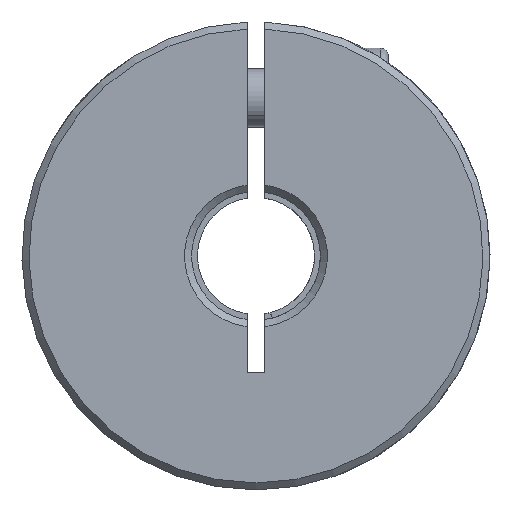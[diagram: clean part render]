
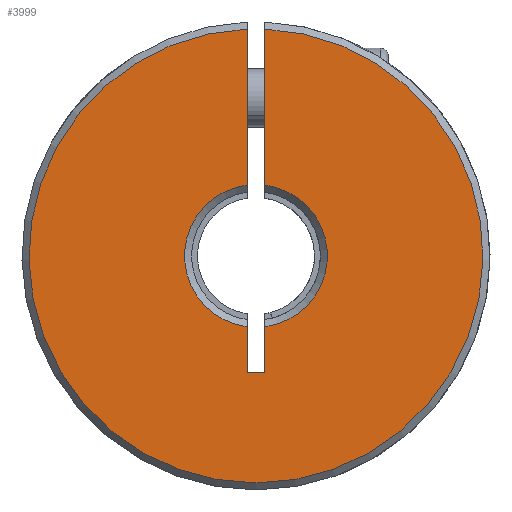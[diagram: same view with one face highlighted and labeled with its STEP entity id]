
A CAD part, front view. The second image highlights one B-rep face of the part: STEP entity #3999.
In plain terms, the highlighted planar face has unit normal (0, -1, 0).
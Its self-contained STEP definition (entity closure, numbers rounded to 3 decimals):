
#83 = VERTEX_POINT ( 'NONE', #1949 ) ;
#127 = DIRECTION ( 'NONE',  ( 0., 0., 1. ) ) ;
#228 = LINE ( 'NONE', #2594, #5447 ) ;
#339 = ORIENTED_EDGE ( 'NONE', *, *, #2731, .T. ) ;
#583 = DIRECTION ( 'NONE',  ( 0., 0., 1. ) ) ;
#652 = DIRECTION ( 'NONE',  ( -1., 0., 0. ) ) ;
#888 = EDGE_CURVE ( 'NONE', #4356, #4620, #228, .T. ) ;
#949 = DIRECTION ( 'NONE',  ( 0., 1., 0. ) ) ;
#953 = EDGE_CURVE ( 'NONE', #4220, #4356, #3539, .T. ) ;
#1008 = CARTESIAN_POINT ( 'NONE',  ( 0.75, -25., -10. ) ) ;
#1395 = CARTESIAN_POINT ( 'NONE',  ( 0., -25., 0. ) ) ;
#1412 = CARTESIAN_POINT ( 'NONE',  ( 0.75, -25., -6.054 ) ) ;
#1522 = ORIENTED_EDGE ( 'NONE', *, *, #3101, .T. ) ;
#1588 = CARTESIAN_POINT ( 'NONE',  ( 0.75, -25., -10. ) ) ;
#1607 = DIRECTION ( 'NONE',  ( 0., 1., 0. ) ) ;
#1694 = CARTESIAN_POINT ( 'NONE',  ( 0.75, -25., -10. ) ) ;
#1908 = DIRECTION ( 'NONE',  ( 0., -1., 0. ) ) ;
#1917 = LINE ( 'NONE', #5128, #4582 ) ;
#1927 = ORIENTED_EDGE ( 'NONE', *, *, #953, .T. ) ;
#1941 = AXIS2_PLACEMENT_3D ( 'NONE', #2557, #1607, #4054 ) ;
#1943 = CARTESIAN_POINT ( 'NONE',  ( -0.75, -25., 19.385 ) ) ;
#1949 = CARTESIAN_POINT ( 'NONE',  ( 0.75, -25., 19.385 ) ) ;
#2284 = CARTESIAN_POINT ( 'NONE',  ( -0.75, -25., -10. ) ) ;
#2311 = CARTESIAN_POINT ( 'NONE',  ( 0., -25., 0. ) ) ;
#2313 = LINE ( 'NONE', #5031, #3392 ) ;
#2557 = CARTESIAN_POINT ( 'NONE',  ( 0., -25., 0. ) ) ;
#2594 = CARTESIAN_POINT ( 'NONE',  ( -0.75, -25., -10. ) ) ;
#2717 = AXIS2_PLACEMENT_3D ( 'NONE', #1395, #949, #127 ) ;
#2731 = EDGE_CURVE ( 'NONE', #2764, #83, #3280, .T. ) ;
#2764 = VERTEX_POINT ( 'NONE', #1943 ) ;
#2790 = VERTEX_POINT ( 'NONE', #4139 ) ;
#2798 = DIRECTION ( 'NONE',  ( 0., 0., 1. ) ) ;
#3010 = PLANE ( 'NONE',  #1941 ) ;
#3068 = FACE_OUTER_BOUND ( 'NONE', #5686, .T. ) ;
#3091 = ORIENTED_EDGE ( 'NONE', *, *, #888, .T. ) ;
#3101 = EDGE_CURVE ( 'NONE', #83, #2790, #5885, .T. ) ;
#3280 = CIRCLE ( 'NONE', #5228, 19.4 ) ;
#3300 = VECTOR ( 'NONE', #5402, 1000. ) ;
#3392 = VECTOR ( 'NONE', #4168, 1000. ) ;
#3500 = ORIENTED_EDGE ( 'NONE', *, *, #5434, .T. ) ;
#3539 = LINE ( 'NONE', #1588, #3300 ) ;
#3629 = ORIENTED_EDGE ( 'NONE', *, *, #5193, .T. ) ;
#3681 = VECTOR ( 'NONE', #4965, 1000. ) ;
#3999 = ADVANCED_FACE ( 'NONE', ( #3068 ), #3010, .F. ) ;
#4026 = CARTESIAN_POINT ( 'NONE',  ( -0.75, -25., 6.054 ) ) ;
#4054 = DIRECTION ( 'NONE',  ( 0., 0., 1. ) ) ;
#4085 = AXIS2_PLACEMENT_3D ( 'NONE', #5229, #4291, #583 ) ;
#4139 = CARTESIAN_POINT ( 'NONE',  ( 0.75, -25., 6.054 ) ) ;
#4168 = DIRECTION ( 'NONE',  ( 0., 0., 1. ) ) ;
#4220 = VERTEX_POINT ( 'NONE', #1412 ) ;
#4291 = DIRECTION ( 'NONE',  ( 0., 1., 0. ) ) ;
#4328 = EDGE_CURVE ( 'NONE', #5342, #4634, #5346, .T. ) ;
#4356 = VERTEX_POINT ( 'NONE', #1008 ) ;
#4372 = EDGE_CURVE ( 'NONE', #4620, #5342, #1917, .T. ) ;
#4374 = ORIENTED_EDGE ( 'NONE', *, *, #4372, .T. ) ;
#4574 = CARTESIAN_POINT ( 'NONE',  ( -0.75, -25., -6.054 ) ) ;
#4582 = VECTOR ( 'NONE', #2798, 1000. ) ;
#4620 = VERTEX_POINT ( 'NONE', #2284 ) ;
#4634 = VERTEX_POINT ( 'NONE', #4026 ) ;
#4770 = CIRCLE ( 'NONE', #4085, 6.1 ) ;
#4965 = DIRECTION ( 'NONE',  ( 0., 0., -1. ) ) ;
#5031 = CARTESIAN_POINT ( 'NONE',  ( -0.75, -25., -10. ) ) ;
#5128 = CARTESIAN_POINT ( 'NONE',  ( -0.75, -25., -10. ) ) ;
#5193 = EDGE_CURVE ( 'NONE', #4634, #2764, #2313, .T. ) ;
#5204 = DIRECTION ( 'NONE',  ( 0., 0., 1. ) ) ;
#5228 = AXIS2_PLACEMENT_3D ( 'NONE', #2311, #1908, #5204 ) ;
#5229 = CARTESIAN_POINT ( 'NONE',  ( 0., -25., 0. ) ) ;
#5342 = VERTEX_POINT ( 'NONE', #4574 ) ;
#5346 = CIRCLE ( 'NONE', #2717, 6.1 ) ;
#5402 = DIRECTION ( 'NONE',  ( 0., 0., -1. ) ) ;
#5434 = EDGE_CURVE ( 'NONE', #2790, #4220, #4770, .T. ) ;
#5447 = VECTOR ( 'NONE', #652, 1000. ) ;
#5686 = EDGE_LOOP ( 'NONE', ( #1522, #3500, #1927, #3091, #4374, #5907, #3629, #339 ) ) ;
#5885 = LINE ( 'NONE', #1694, #3681 ) ;
#5907 = ORIENTED_EDGE ( 'NONE', *, *, #4328, .T. ) ;
